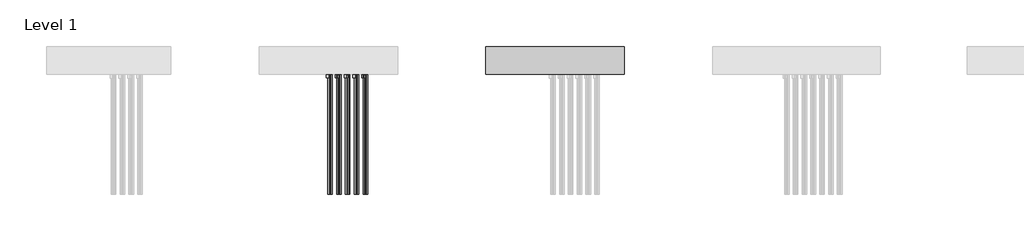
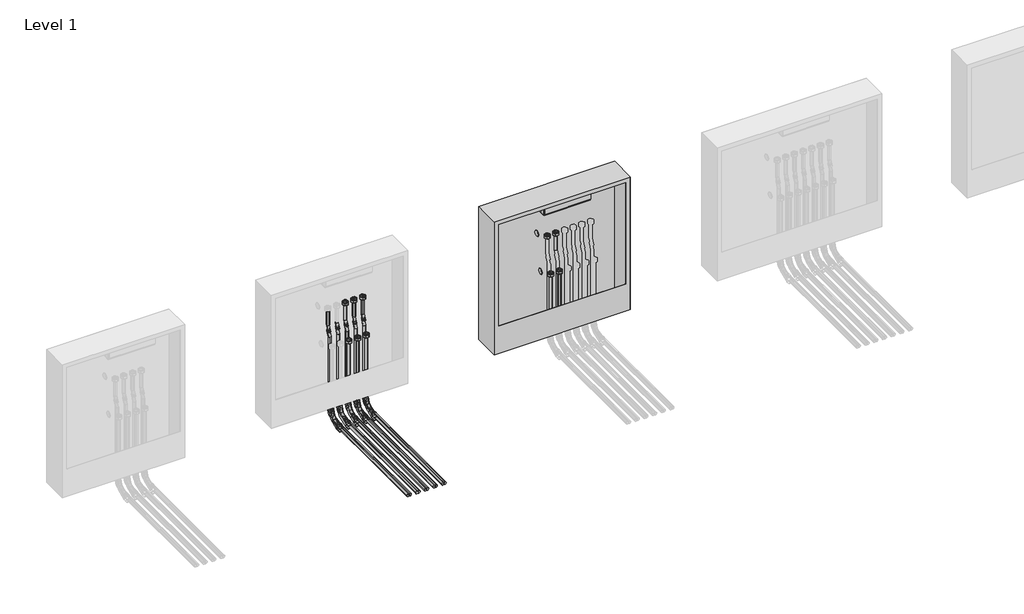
# One storey, part 3 of 15: 40 pipe fittings, 32 pipe segments, 1 proxy, 1 valve.
"""IFC4 building model written with IfcOpenShell, lengths in millimetres."""

from ifc_helpers import new_model, si_unit, point, frame, frame_2d, origin, place, context, project, spatial, circle_curve, trimmed, segment, composite_curve, outline, extrude, transform, mapped, element, save
from components import mechanical_equipment_387b3563, pipe_fitting_b05a7e06, pipe_fitting_27357a6d, pipe_fitting_daada113, pipe_fitting_3e503640, valve_a98dd44e

model = new_model("IFC4")

# Units and contexts
model_context = context("Model", 3, world=origin())
ifc_project = project(units=[si_unit("LENGTHUNIT", "METRE", prefix="MILLI")], contexts=[model_context])

# Site, building, storey
site = spatial("IfcSite", under=ifc_project)
building = spatial("IfcBuilding", under=site)
storey = spatial("IfcBuildingStorey", under=building, Name="Level 1", Elevation=0.0)

# Proxy
placement = place(None, origin())
mechanical_equipment_shape = mechanical_equipment_387b3563(model_context)
element("IfcBuildingElementProxy", 1, Name="USYSTEMS_Контроллер UH-6 230В1 : Контроллер UH-6 230В 2", ObjectType="USYSTEMS_Контроллер UH-6 230В1 : Контроллер UH-6 230В 2", at=placement, inside=storey, context=model_context, shape_type="MappedRepresentation", body=[
    mapped(mechanical_equipment_shape, transform((7445.6279983, 3891.7097258, 729.375), x_axis=(1.0, 0.0, 0.0), y_axis=(0.0, 1.0, 0.0), z_axis=(0.0, 0.0, 1.0))),
])

# Pipe fittings
pipe_fitting_shape = pipe_fitting_b05a7e06(model_context)
element("IfcPipeFitting", 2, ObjectType="USYSTEMS_УгловойФиксатор_Multi : Угловой фиксатор", at=placement, inside=storey, context=model_context, shape_type="MappedRepresentation", body=[
    mapped(pipe_fitting_shape, transform((6078.9182194, 3820.2111199, -114.3211479), x_axis=(0.0, 0.0, -1.0), y_axis=(0.0, -1.0, 0.0), z_axis=(-1.0, 0.0, 0.0))),
])
element("IfcPipeFitting", 3, ObjectType="USYSTEMS_УгловойФиксатор_Multi : Угловой фиксатор", at=placement, inside=storey, context=model_context, shape_type="MappedRepresentation", body=[
    mapped(pipe_fitting_shape, transform((6128.9182194, 3820.2111199, -114.3211479), x_axis=(0.0, 0.0, -1.0), y_axis=(0.0, -1.0, 0.0), z_axis=(-1.0, 0.0, 0.0))),
])
element("IfcPipeFitting", 4, ObjectType="USYSTEMS_УгловойФиксатор_Multi : Угловой фиксатор", at=placement, inside=storey, context=model_context, shape_type="MappedRepresentation", body=[
    mapped(pipe_fitting_shape, transform((6089.0039759, 3856.2111199, -114.3211479), x_axis=(0.0, 0.0, -1.0), y_axis=(0.0, -1.0, 0.0), z_axis=(-1.0, 0.0, 0.0))),
])
element("IfcPipeFitting", 5, ObjectType="USYSTEMS_УгловойФиксатор_Multi : Угловой фиксатор", at=placement, inside=storey, context=model_context, shape_type="MappedRepresentation", body=[
    mapped(pipe_fitting_shape, transform((6139.0039759, 3856.2111199, -114.3211479), x_axis=(0.0, 0.0, -1.0), y_axis=(0.0, -1.0, 0.0), z_axis=(-1.0, 0.0, 0.0))),
])
element("IfcPipeFitting", 6, ObjectType="USYSTEMS_УгловойФиксатор_Multi : Угловой фиксатор", at=placement, inside=storey, context=model_context, shape_type="MappedRepresentation", body=[
    mapped(pipe_fitting_shape, transform((6178.9182194, 3820.211442, -114.3211479), x_axis=(0.0, 0.0, -1.0), y_axis=(0.0, -1.0, 0.0), z_axis=(-1.0, 0.0, 0.0))),
])
element("IfcPipeFitting", 7, ObjectType="USYSTEMS_УгловойФиксатор_Multi : Угловой фиксатор", at=placement, inside=storey, context=model_context, shape_type="MappedRepresentation", body=[
    mapped(pipe_fitting_shape, transform((6189.0039759, 3856.2111199, -114.3211479), x_axis=(0.0, 0.0, -1.0), y_axis=(0.0, -1.0, 0.0), z_axis=(-1.0, 0.0, 0.0))),
])
element("IfcPipeFitting", 8, ObjectType="USYSTEMS_УгловойФиксатор_Multi : Угловой фиксатор", at=placement, inside=storey, context=model_context, shape_type="MappedRepresentation", body=[
    mapped(pipe_fitting_shape, transform((6228.9182194, 3820.2114295, -114.3211479), x_axis=(0.0, 0.0, -1.0), y_axis=(0.0, -1.0, 0.0), z_axis=(-1.0, 0.0, 0.0))),
])
element("IfcPipeFitting", 9, ObjectType="USYSTEMS_УгловойФиксатор_Multi : Угловой фиксатор", at=placement, inside=storey, context=model_context, shape_type="MappedRepresentation", body=[
    mapped(pipe_fitting_shape, transform((6239.0039759, 3856.2111199, -114.3211479), x_axis=(0.0, 0.0, -1.0), y_axis=(0.0, -1.0, 0.0), z_axis=(-1.0, 0.0, 0.0))),
])
element("IfcPipeFitting", 10, ObjectType="USYSTEMS_УгловойФиксатор_Multi : Угловой фиксатор", at=placement, inside=storey, context=model_context, shape_type="MappedRepresentation", body=[
    mapped(pipe_fitting_shape, transform((6278.9182194, 3820.2111304, -114.3211479), x_axis=(0.0, 0.0, -1.0), y_axis=(0.0, -1.0, 0.0), z_axis=(-1.0, 0.0, 0.0))),
])
element("IfcPipeFitting", 11, ObjectType="USYSTEMS_УгловойФиксатор_Multi : Угловой фиксатор", at=placement, inside=storey, context=model_context, shape_type="MappedRepresentation", body=[
    mapped(pipe_fitting_shape, transform((6289.0039759, 3856.2111199, -114.3211479), x_axis=(0.0, 0.0, -1.0), y_axis=(0.0, -1.0, 0.0), z_axis=(-1.0, 0.0, 0.0))),
])
pipe_fitting_2_shape = pipe_fitting_27357a6d(model_context)
element("IfcPipeFitting", 12, ObjectType="USYSTEMS_Штуцер с внутренней резьбой_FlexX_PEX : 16x2,0 x 3/4\" ВР Евроконус", at=placement, inside=storey, context=model_context, shape_type="MappedRepresentation", body=[
    mapped(pipe_fitting_2_shape, transform((6178.9182194, 3820.21158, 328.3084133), x_axis=(0.0, 0.0, 1.0), y_axis=(0.0, 1.0, 0.0), z_axis=(-1.0, 0.0, 0.0))),
])
element("IfcPipeFitting", 13, ObjectType="USYSTEMS_Штуцер с внутренней резьбой_FlexX_PEX : 16x2,0 x 3/4\" ВР Евроконус", at=placement, inside=storey, context=model_context, shape_type="MappedRepresentation", body=[
    mapped(pipe_fitting_2_shape, transform((6178.9182194, 3856.21158, 538.3084133), x_axis=(0.0, 0.0, 1.0), y_axis=(0.0, 1.0, 0.0), z_axis=(-1.0, 0.0, 0.0))),
])
element("IfcPipeFitting", 14, ObjectType="USYSTEMS_Штуцер с внутренней резьбой_FlexX_PEX : 16x2,0 x 3/4\" ВР Евроконус", at=placement, inside=storey, context=model_context, shape_type="MappedRepresentation", body=[
    mapped(pipe_fitting_2_shape, transform((6228.9182194, 3820.21158, 328.3084133), x_axis=(0.0, 0.0, 1.0), y_axis=(0.0, 1.0, 0.0), z_axis=(-1.0, 0.0, 0.0))),
])
element("IfcPipeFitting", 15, ObjectType="USYSTEMS_Штуцер с внутренней резьбой_FlexX_PEX : 16x2,0 x 3/4\" ВР Евроконус", at=placement, inside=storey, context=model_context, shape_type="MappedRepresentation", body=[
    mapped(pipe_fitting_2_shape, transform((6228.9182194, 3856.21158, 538.3084133), x_axis=(0.0, 0.0, 1.0), y_axis=(0.0, 1.0, 0.0), z_axis=(-1.0, 0.0, 0.0))),
])
element("IfcPipeFitting", 16, ObjectType="USYSTEMS_Штуцер с внутренней резьбой_FlexX_PEX : 16x2,0 x 3/4\" ВР Евроконус", at=placement, inside=storey, context=model_context, shape_type="MappedRepresentation", body=[
    mapped(pipe_fitting_2_shape, transform((6278.9182194, 3820.21158, 328.3084133), x_axis=(0.0, 0.0, 1.0), y_axis=(0.0, 1.0, 0.0), z_axis=(-1.0, 0.0, 0.0))),
])
element("IfcPipeFitting", 17, ObjectType="USYSTEMS_Штуцер с внутренней резьбой_FlexX_PEX : 16x2,0 x 3/4\" ВР Евроконус", at=placement, inside=storey, context=model_context, shape_type="MappedRepresentation", body=[
    mapped(pipe_fitting_2_shape, transform((6278.9182194, 3856.21158, 538.3084133), x_axis=(0.0, 0.0, 1.0), y_axis=(0.0, 1.0, 0.0), z_axis=(-1.0, 0.0, 0.0))),
])
element("IfcPipeFitting", 18, ObjectType="USYSTEMS_Штуцер с внутренней резьбой_FlexX_PEX : 16x2,0 x 3/4\" ВР Евроконус", at=placement, inside=storey, context=model_context, shape_type="MappedRepresentation", body=[
    mapped(pipe_fitting_2_shape, transform((7392.2335352, 3855.7726859, 538.3084133), x_axis=(0.0, 0.0, 1.0), y_axis=(0.0, 1.0, 0.0), z_axis=(-1.0, 0.0, 0.0))),
])
element("IfcPipeFitting", 19, ObjectType="USYSTEMS_Штуцер с внутренней резьбой_FlexX_PEX : 16x2,0 x 3/4\" ВР Евроконус", at=placement, inside=storey, context=model_context, shape_type="MappedRepresentation", body=[
    mapped(pipe_fitting_2_shape, transform((7392.2335352, 3819.7726859, 328.3084133), x_axis=(0.0, 0.0, 1.0), y_axis=(0.0, 1.0, 0.0), z_axis=(-1.0, 0.0, 0.0))),
])
element("IfcPipeFitting", 20, ObjectType="USYSTEMS_Штуцер с внутренней резьбой_FlexX_PEX : 16x2,0 x 3/4\" ВР Евроконус", at=placement, inside=storey, context=model_context, shape_type="MappedRepresentation", body=[
    mapped(pipe_fitting_2_shape, transform((7342.2335352, 3819.7726859, 328.3084133), x_axis=(0.0, 0.0, 1.0), y_axis=(0.0, 1.0, 0.0), z_axis=(-1.0, 0.0, 0.0))),
])
element("IfcPipeFitting", 21, ObjectType="USYSTEMS_Штуцер с внутренней резьбой_FlexX_PEX : 16x2,0 x 3/4\" ВР Евроконус", at=placement, inside=storey, context=model_context, shape_type="MappedRepresentation", body=[
    mapped(pipe_fitting_2_shape, transform((7342.2335352, 3855.7726859, 538.3084133), x_axis=(0.0, 0.0, 1.0), y_axis=(0.0, 1.0, 0.0), z_axis=(-1.0, 0.0, 0.0))),
])
pipe_fitting_3_shape = pipe_fitting_daada113(model_context)
element("IfcPipeFitting", 22, ObjectType="USYSTEMS_Гнутая труба_Radi Pipe : PN 6 в бухтах", at=placement, inside=storey, context=model_context, shape_type="MappedRepresentation", body=[
    mapped(pipe_fitting_3_shape, transform((6078.9182194, 3856.2108201, 414.5388211), x_axis=(0.0, 0.0, -1.0), y_axis=(1.0, 0.0, 0.0), z_axis=(0.0, -1.0, 0.0))),
])
element("IfcPipeFitting", 23, ObjectType="USYSTEMS_Гнутая труба_Radi Pipe : PN 6 в бухтах", at=placement, inside=storey, context=model_context, shape_type="MappedRepresentation", body=[
    mapped(pipe_fitting_3_shape, transform((6089.0039759, 3856.2111199, 388.2645272), x_axis=(0.3583679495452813, 0.0, -0.9335804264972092), y_axis=(-0.9335804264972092, 0.0, -0.3583679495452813), z_axis=(0.0, 1.0, 0.0))),
])
element("IfcPipeFitting", 24, ObjectType="USYSTEMS_Гнутая труба_Radi Pipe : PN 6 в бухтах", at=placement, inside=storey, context=model_context, shape_type="MappedRepresentation", body=[
    mapped(pipe_fitting_3_shape, transform((6128.9182194, 3856.2108202, 414.5122189), x_axis=(0.0, 0.0, -1.0), y_axis=(1.0, 0.0, 0.0), z_axis=(0.0, -1.0, 0.0))),
])
element("IfcPipeFitting", 25, ObjectType="USYSTEMS_Гнутая труба_Radi Pipe : PN 6 в бухтах", at=placement, inside=storey, context=model_context, shape_type="MappedRepresentation", body=[
    mapped(pipe_fitting_3_shape, transform((6139.0039759, 3856.2111199, 388.237925), x_axis=(0.3583679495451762, 0.0, -0.9335804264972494), y_axis=(-0.9335804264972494, 0.0, -0.3583679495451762), z_axis=(0.0, 1.0, 0.0))),
])
element("IfcPipeFitting", 26, ObjectType="USYSTEMS_Гнутая труба_Radi Pipe : PN 6 в бухтах", at=placement, inside=storey, context=model_context, shape_type="MappedRepresentation", body=[
    mapped(pipe_fitting_3_shape, transform((6178.9182194, 3856.2108201, 414.5388211), x_axis=(0.0, 0.0, -1.0), y_axis=(1.0, 0.0, 0.0), z_axis=(0.0, -1.0, 0.0))),
])
element("IfcPipeFitting", 27, ObjectType="USYSTEMS_Гнутая труба_Radi Pipe : PN 6 в бухтах", at=placement, inside=storey, context=model_context, shape_type="MappedRepresentation", body=[
    mapped(pipe_fitting_3_shape, transform((6189.0039759, 3856.2111199, 388.2645272), x_axis=(0.3583679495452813, 0.0, -0.9335804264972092), y_axis=(-0.9335804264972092, 0.0, -0.3583679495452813), z_axis=(0.0, 1.0, 0.0))),
])
element("IfcPipeFitting", 28, ObjectType="USYSTEMS_Гнутая труба_Radi Pipe : PN 6 в бухтах", at=placement, inside=storey, context=model_context, shape_type="MappedRepresentation", body=[
    mapped(pipe_fitting_3_shape, transform((6228.9182194, 3856.2108201, 414.5388211), x_axis=(0.0, 0.0, -1.0), y_axis=(1.0, 0.0, 0.0), z_axis=(0.0, -1.0, 0.0))),
])
element("IfcPipeFitting", 29, ObjectType="USYSTEMS_Гнутая труба_Radi Pipe : PN 6 в бухтах", at=placement, inside=storey, context=model_context, shape_type="MappedRepresentation", body=[
    mapped(pipe_fitting_3_shape, transform((6239.0039759, 3856.2111199, 388.2645272), x_axis=(0.3583679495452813, 0.0, -0.9335804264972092), y_axis=(-0.9335804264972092, 0.0, -0.3583679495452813), z_axis=(0.0, 1.0, 0.0))),
])
element("IfcPipeFitting", 30, ObjectType="USYSTEMS_Гнутая труба_Radi Pipe : PN 6 в бухтах", at=placement, inside=storey, context=model_context, shape_type="MappedRepresentation", body=[
    mapped(pipe_fitting_3_shape, transform((6278.9182194, 3856.2108201, 414.5388211), x_axis=(0.0, 0.0, -1.0), y_axis=(1.0, 0.0, 0.0), z_axis=(0.0, -1.0, 0.0))),
])
element("IfcPipeFitting", 31, ObjectType="USYSTEMS_Гнутая труба_Radi Pipe : PN 6 в бухтах", at=placement, inside=storey, context=model_context, shape_type="MappedRepresentation", body=[
    mapped(pipe_fitting_3_shape, transform((6289.0039759, 3856.2111199, 388.2645272), x_axis=(0.3583679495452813, 0.0, -0.9335804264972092), y_axis=(-0.9335804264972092, 0.0, -0.3583679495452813), z_axis=(0.0, 1.0, 0.0))),
])
pipe_fitting_4_shape = pipe_fitting_3e503640(model_context)
element("IfcPipeFitting", 32, ObjectType="USYSTEMS_Гнутая труба_Radi Pipe : PN 6 в бухтах_С фиксатором", at=placement, inside=storey, context=model_context, shape_type="MappedRepresentation", body=[
    mapped(pipe_fitting_4_shape, transform((6078.9182194, 3820.2111199, -114.3211479), x_axis=(0.0, 0.0, -1.0), y_axis=(0.0, -1.0, 0.0), z_axis=(-1.0, 0.0, 0.0))),
])
element("IfcPipeFitting", 33, ObjectType="USYSTEMS_Гнутая труба_Radi Pipe : PN 6 в бухтах_С фиксатором", at=placement, inside=storey, context=model_context, shape_type="MappedRepresentation", body=[
    mapped(pipe_fitting_4_shape, transform((6128.9182194, 3820.2111199, -114.3211479), x_axis=(0.0, 0.0, -1.0), y_axis=(0.0, -1.0, 0.0), z_axis=(-1.0, 0.0, 0.0))),
])
element("IfcPipeFitting", 34, ObjectType="USYSTEMS_Гнутая труба_Radi Pipe : PN 6 в бухтах_С фиксатором", at=placement, inside=storey, context=model_context, shape_type="MappedRepresentation", body=[
    mapped(pipe_fitting_4_shape, transform((6089.0039759, 3856.2111199, -114.3211479), x_axis=(0.0, 0.0, -1.0), y_axis=(0.0, -1.0, 0.0), z_axis=(-1.0, 0.0, 0.0))),
])
element("IfcPipeFitting", 35, ObjectType="USYSTEMS_Гнутая труба_Radi Pipe : PN 6 в бухтах_С фиксатором", at=placement, inside=storey, context=model_context, shape_type="MappedRepresentation", body=[
    mapped(pipe_fitting_4_shape, transform((6139.0039759, 3856.2111199, -114.3211479), x_axis=(0.0, 0.0, -1.0), y_axis=(0.0, -1.0, 0.0), z_axis=(-1.0, 0.0, 0.0))),
])
element("IfcPipeFitting", 36, ObjectType="USYSTEMS_Гнутая труба_Radi Pipe : PN 6 в бухтах_С фиксатором", at=placement, inside=storey, context=model_context, shape_type="MappedRepresentation", body=[
    mapped(pipe_fitting_4_shape, transform((6178.9182194, 3820.211442, -114.3211479), x_axis=(0.0, 0.0, -1.0), y_axis=(0.0, -1.0, 0.0), z_axis=(-1.0, 0.0, 0.0))),
])
element("IfcPipeFitting", 37, ObjectType="USYSTEMS_Гнутая труба_Radi Pipe : PN 6 в бухтах_С фиксатором", at=placement, inside=storey, context=model_context, shape_type="MappedRepresentation", body=[
    mapped(pipe_fitting_4_shape, transform((6189.0039759, 3856.2111199, -114.3211479), x_axis=(0.0, 0.0, -1.0), y_axis=(0.0, -1.0, 0.0), z_axis=(-1.0, 0.0, 0.0))),
])
element("IfcPipeFitting", 38, ObjectType="USYSTEMS_Гнутая труба_Radi Pipe : PN 6 в бухтах_С фиксатором", at=placement, inside=storey, context=model_context, shape_type="MappedRepresentation", body=[
    mapped(pipe_fitting_4_shape, transform((6228.9182194, 3820.2114295, -114.3211479), x_axis=(0.0, 0.0, -1.0), y_axis=(0.0, -1.0, 0.0), z_axis=(-1.0, 0.0, 0.0))),
])
element("IfcPipeFitting", 39, ObjectType="USYSTEMS_Гнутая труба_Radi Pipe : PN 6 в бухтах_С фиксатором", at=placement, inside=storey, context=model_context, shape_type="MappedRepresentation", body=[
    mapped(pipe_fitting_4_shape, transform((6239.0039759, 3856.2111199, -114.3211479), x_axis=(0.0, 0.0, -1.0), y_axis=(0.0, -1.0, 0.0), z_axis=(-1.0, 0.0, 0.0))),
])
element("IfcPipeFitting", 40, ObjectType="USYSTEMS_Гнутая труба_Radi Pipe : PN 6 в бухтах_С фиксатором", at=placement, inside=storey, context=model_context, shape_type="MappedRepresentation", body=[
    mapped(pipe_fitting_4_shape, transform((6278.9182194, 3820.2111304, -114.3211479), x_axis=(0.0, 0.0, -1.0), y_axis=(0.0, -1.0, 0.0), z_axis=(-1.0, 0.0, 0.0))),
])
element("IfcPipeFitting", 41, ObjectType="USYSTEMS_Гнутая труба_Radi Pipe : PN 6 в бухтах_С фиксатором", at=placement, inside=storey, context=model_context, shape_type="MappedRepresentation", body=[
    mapped(pipe_fitting_4_shape, transform((6289.0039759, 3856.2111199, -114.3211479), x_axis=(0.0, 0.0, -1.0), y_axis=(0.0, -1.0, 0.0), z_axis=(-1.0, 0.0, 0.0))),
])

# Pipe segments
element("IfcPipeSegment", 42, ObjectType="USYSTEMS труба Radi Pipe белая PN6", at=placement, inside=storey, context=model_context, shape_type="SweptSolid", body=[
    extrude(outline(composite_curve([segment(trimmed(circle_curve(frame_2d((0.0, -8.0)), 8.0), [point((-8.0, -8.0))], [point((0.0, 0.0))], False, "CARTESIAN"), True, "CONTINUOUS"), segment(trimmed(circle_curve(frame_2d((0.0, -8.0)), 8.0), [point((0.0, 0.0))], [point((8.0, -8.0))], False, "CARTESIAN"), True, "CONTINUOUS"), segment(trimmed(circle_curve(frame_2d((0.0, -8.0)), 8.0), [point((8.0, -8.0))], [point((0.0, -16.0))], False, "CARTESIAN"), True, "CONTINUOUS"), segment(trimmed(circle_curve(frame_2d((0.0, -8.0)), 8.0), [point((0.0, -16.0))], [point((-8.0, -8.0))], False, "CARTESIAN"), True, "CONTINUOUS")], self_intersect=False)), frame((6078.9182194, 3848.2108201, 438.2622802), z_axis=(0.0, 7.672802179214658e-06, 0.9999999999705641), x_axis=(-1.0, 0.0, 0.0)), (0.0, 0.0, 1.0), 99.0461944),
])
element("IfcPipeSegment", 43, ObjectType="USYSTEMS труба Radi Pipe белая PN6", at=placement, inside=storey, context=model_context, shape_type="SweptSolid", body=[
    extrude(outline(composite_curve([segment(trimmed(circle_curve(frame_2d((0.0, 8.0)), 8.0), [point((0.0003714, 16.0))], [point((8.0, 7.9996286))], False, "CARTESIAN"), True, "CONTINUOUS"), segment(trimmed(circle_curve(frame_2d((0.0, 8.0)), 8.0), [point((8.0, 7.9996286))], [point((-0.0003715, 0.0))], False, "CARTESIAN"), True, "CONTINUOUS"), segment(trimmed(circle_curve(frame_2d((0.0, 8.0)), 8.0), [point((-0.0003715, 0.0))], [point((-8.0, 8.0003714))], False, "CARTESIAN"), True, "CONTINUOUS"), segment(trimmed(circle_curve(frame_2d((0.0, 8.0)), 8.0), [point((-8.0, 8.0003714))], [point((0.0003714, 16.0))], False, "CARTESIAN"), True, "CONTINUOUS")], self_intersect=False)), frame((6087.4199249, 3848.2108201, 392.3912544), z_axis=(-0.358367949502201, 1.5532384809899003e-05, 0.9335804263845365), x_axis=(0.933580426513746, 5.962323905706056e-06, 0.35836794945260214)), (0.0, 0.0, 1.0), 19.3032171),
])
element("IfcPipeSegment", 44, ObjectType="USYSTEMS труба Radi Pipe белая PN6", at=placement, inside=storey, context=model_context, shape_type="SweptSolid", body=[
    extrude(outline(composite_curve([segment(trimmed(circle_curve(frame_2d((6089.0039759, 3856.2111199)), 8.0), [point((6097.0039759, 3856.2111199))], [point((6089.0039759, 3848.2111199))], False, "CARTESIAN"), True, "CONTINUOUS"), segment(trimmed(circle_curve(frame_2d((6089.0039759, 3856.2111199)), 8.0), [point((6089.0039759, 3848.2111199))], [point((6081.0039759, 3856.2111199))], False, "CARTESIAN"), True, "CONTINUOUS"), segment(trimmed(circle_curve(frame_2d((6089.0039759, 3856.2111199)), 8.0), [point((6081.0039759, 3856.2111199))], [point((6089.0039759, 3864.2111199))], False, "CARTESIAN"), True, "CONTINUOUS"), segment(trimmed(circle_curve(frame_2d((6089.0039759, 3856.2111199)), 8.0), [point((6089.0039759, 3864.2111199))], [point((6097.0039759, 3856.2111199))], False, "CARTESIAN"), True, "CONTINUOUS")], self_intersect=False)), frame((0.0, 0.0, -43.3211479), z_axis=(0.0, 0.0, 1.0), x_axis=(1.0, 0.0, 0.0)), (0.0, 0.0, 1.0), 407.8622774),
])
element("IfcPipeSegment", 45, ObjectType="USYSTEMS труба Radi Pipe белая PN6", at=placement, inside=storey, context=model_context, shape_type="SweptSolid", body=[
    extrude(outline(composite_curve([segment(trimmed(circle_curve(frame_2d((0.0, 8.0)), 8.0), [point((0.0003712, 16.0))], [point((8.0, 7.9996287))], False, "CARTESIAN"), True, "CONTINUOUS"), segment(trimmed(circle_curve(frame_2d((0.0, 8.0)), 8.0), [point((8.0, 7.9996287))], [point((-0.0003712, 0.0))], False, "CARTESIAN"), True, "CONTINUOUS"), segment(trimmed(circle_curve(frame_2d((0.0, 8.0)), 8.0), [point((-0.0003712, 0.0))], [point((-8.0, 8.0003713))], False, "CARTESIAN"), True, "CONTINUOUS"), segment(trimmed(circle_curve(frame_2d((0.0, 8.0)), 8.0), [point((-8.0, 8.0003713))], [point((0.0003712, 16.0))], False, "CARTESIAN"), True, "CONTINUOUS")], self_intersect=False)), frame((6137.4199249, 3848.2108202, 392.3646521), z_axis=(-0.358367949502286, 1.5525497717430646e-05, 0.9335804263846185), x_axis=(0.9335804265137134, 5.959680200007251e-06, 0.3583679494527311)), (0.0, 0.0, 1.0), 19.3032171),
])
element("IfcPipeSegment", 46, ObjectType="USYSTEMS труба Radi Pipe белая PN6", at=placement, inside=storey, context=model_context, shape_type="SweptSolid", body=[
    extrude(outline(composite_curve([segment(trimmed(circle_curve(frame_2d((6139.0039759, 3856.2111199)), 8.0), [point((6147.0039759, 3856.2111199))], [point((6139.0039759, 3848.2111199))], False, "CARTESIAN"), True, "CONTINUOUS"), segment(trimmed(circle_curve(frame_2d((6139.0039759, 3856.2111199)), 8.0), [point((6139.0039759, 3848.2111199))], [point((6131.0039759, 3856.2111199))], False, "CARTESIAN"), True, "CONTINUOUS"), segment(trimmed(circle_curve(frame_2d((6139.0039759, 3856.2111199)), 8.0), [point((6131.0039759, 3856.2111199))], [point((6139.0039759, 3864.2111199))], False, "CARTESIAN"), True, "CONTINUOUS"), segment(trimmed(circle_curve(frame_2d((6139.0039759, 3856.2111199)), 8.0), [point((6139.0039759, 3864.2111199))], [point((6147.0039759, 3856.2111199))], False, "CARTESIAN"), True, "CONTINUOUS")], self_intersect=False)), frame((0.0, 0.0, -43.3211479), z_axis=(0.0, 0.0, 1.0), x_axis=(1.0, 0.0, 0.0)), (0.0, 0.0, 1.0), 407.8356751),
])
element("IfcPipeSegment", 47, ObjectType="USYSTEMS труба Radi Pipe белая PN6", at=placement, inside=storey, context=model_context, shape_type="SweptSolid", body=[
    extrude(outline(composite_curve([segment(trimmed(circle_curve(frame_2d((-114.3211479, 6078.9182194)), 8.0), [point((-114.3211479, 6070.9182194))], [point((-122.3211479, 6078.9182194))], False, "CARTESIAN"), True, "CONTINUOUS"), segment(trimmed(circle_curve(frame_2d((-114.3211479, 6078.9182194)), 8.0), [point((-122.3211479, 6078.9182194))], [point((-114.3211479, 6086.9182194))], False, "CARTESIAN"), True, "CONTINUOUS"), segment(trimmed(circle_curve(frame_2d((-114.3211479, 6078.9182194)), 8.0), [point((-114.3211479, 6086.9182194))], [point((-106.3211479, 6078.9182194))], False, "CARTESIAN"), True, "CONTINUOUS"), segment(trimmed(circle_curve(frame_2d((-114.3211479, 6078.9182194)), 8.0), [point((-106.3211479, 6078.9182194))], [point((-114.3211479, 6070.9182194))], False, "CARTESIAN"), True, "CONTINUOUS")], self_intersect=False)), frame((0.0, 3054.7207207, 0.0), z_axis=(0.0, 1.0, 0.0), x_axis=(0.0, 0.0, 1.0)), (0.0, 0.0, 1.0), 694.4903992),
])
element("IfcPipeSegment", 48, ObjectType="USYSTEMS труба Radi Pipe белая PN6", at=placement, inside=storey, context=model_context, shape_type="SweptSolid", body=[
    extrude(outline(composite_curve([segment(trimmed(circle_curve(frame_2d((-114.3211479, 6128.9182194)), 8.0), [point((-114.3211479, 6120.9182194))], [point((-122.3211479, 6128.9182194))], False, "CARTESIAN"), True, "CONTINUOUS"), segment(trimmed(circle_curve(frame_2d((-114.3211479, 6128.9182194)), 8.0), [point((-122.3211479, 6128.9182194))], [point((-114.3211479, 6136.9182194))], False, "CARTESIAN"), True, "CONTINUOUS"), segment(trimmed(circle_curve(frame_2d((-114.3211479, 6128.9182194)), 8.0), [point((-114.3211479, 6136.9182194))], [point((-106.3211479, 6128.9182194))], False, "CARTESIAN"), True, "CONTINUOUS"), segment(trimmed(circle_curve(frame_2d((-114.3211479, 6128.9182194)), 8.0), [point((-106.3211479, 6128.9182194))], [point((-114.3211479, 6120.9182194))], False, "CARTESIAN"), True, "CONTINUOUS")], self_intersect=False)), frame((0.0, 3054.7207207, 0.0), z_axis=(0.0, 1.0, 0.0), x_axis=(0.0, 0.0, 1.0)), (0.0, 0.0, 1.0), 694.4903992),
])
element("IfcPipeSegment", 49, ObjectType="USYSTEMS труба Radi Pipe белая PN6", at=placement, inside=storey, context=model_context, shape_type="SweptSolid", body=[
    extrude(outline(composite_curve([segment(trimmed(circle_curve(frame_2d((-114.3211479, 6089.0039759)), 8.0), [point((-114.3211479, 6081.0039759))], [point((-122.3211479, 6089.0039759))], False, "CARTESIAN"), True, "CONTINUOUS"), segment(trimmed(circle_curve(frame_2d((-114.3211479, 6089.0039759)), 8.0), [point((-122.3211479, 6089.0039759))], [point((-114.3211479, 6097.0039759))], False, "CARTESIAN"), True, "CONTINUOUS"), segment(trimmed(circle_curve(frame_2d((-114.3211479, 6089.0039759)), 8.0), [point((-114.3211479, 6097.0039759))], [point((-106.3211479, 6089.0039759))], False, "CARTESIAN"), True, "CONTINUOUS"), segment(trimmed(circle_curve(frame_2d((-114.3211479, 6089.0039759)), 8.0), [point((-106.3211479, 6089.0039759))], [point((-114.3211479, 6081.0039759))], False, "CARTESIAN"), True, "CONTINUOUS")], self_intersect=False)), frame((0.0, 3054.7207207, 0.0), z_axis=(0.0, 1.0, 0.0), x_axis=(0.0, 0.0, 1.0)), (0.0, 0.0, 1.0), 730.4903992),
])
element("IfcPipeSegment", 50, ObjectType="USYSTEMS труба Radi Pipe белая PN6", at=placement, inside=storey, context=model_context, shape_type="SweptSolid", body=[
    extrude(outline(composite_curve([segment(trimmed(circle_curve(frame_2d((-114.3211479, 6139.0039759)), 8.0), [point((-114.3211479, 6131.0039759))], [point((-122.3211479, 6139.0039759))], False, "CARTESIAN"), True, "CONTINUOUS"), segment(trimmed(circle_curve(frame_2d((-114.3211479, 6139.0039759)), 8.0), [point((-122.3211479, 6139.0039759))], [point((-114.3211479, 6147.0039759))], False, "CARTESIAN"), True, "CONTINUOUS"), segment(trimmed(circle_curve(frame_2d((-114.3211479, 6139.0039759)), 8.0), [point((-114.3211479, 6147.0039759))], [point((-106.3211479, 6139.0039759))], False, "CARTESIAN"), True, "CONTINUOUS"), segment(trimmed(circle_curve(frame_2d((-114.3211479, 6139.0039759)), 8.0), [point((-106.3211479, 6139.0039759))], [point((-114.3211479, 6131.0039759))], False, "CARTESIAN"), True, "CONTINUOUS")], self_intersect=False)), frame((0.0, 3054.7207207, 0.0), z_axis=(0.0, 1.0, 0.0), x_axis=(0.0, 0.0, 1.0)), (0.0, 0.0, 1.0), 730.4903992),
])
element("IfcPipeSegment", 51, ObjectType="USYSTEMS труба Radi Pipe белая PN6", at=placement, inside=storey, context=model_context, shape_type="SweptSolid", body=[
    extrude(outline(composite_curve([segment(trimmed(circle_curve(frame_2d((0.0, -8.0)), 8.0), [point((-8.0, -8.0))], [point((0.0, 0.0))], False, "CARTESIAN"), True, "CONTINUOUS"), segment(trimmed(circle_curve(frame_2d((0.0, -8.0)), 8.0), [point((0.0, 0.0))], [point((8.0, -8.0))], False, "CARTESIAN"), True, "CONTINUOUS"), segment(trimmed(circle_curve(frame_2d((0.0, -8.0)), 8.0), [point((8.0, -8.0))], [point((0.0, -16.0))], False, "CARTESIAN"), True, "CONTINUOUS"), segment(trimmed(circle_curve(frame_2d((0.0, -8.0)), 8.0), [point((0.0, -16.0))], [point((-8.0, -8.0))], False, "CARTESIAN"), True, "CONTINUOUS")], self_intersect=False)), frame((6178.9182194, 3812.211442, -43.3211449), z_axis=(0.0, 3.724502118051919e-07, 0.9999999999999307), x_axis=(-1.0, 0.0, 0.0)), (0.0, 0.0, 1.0), 370.6295612),
])
element("IfcPipeSegment", 52, ObjectType="USYSTEMS труба Radi Pipe белая PN6", at=placement, inside=storey, context=model_context, shape_type="SweptSolid", body=[
    extrude(outline(composite_curve([segment(trimmed(circle_curve(frame_2d((0.0, -8.0)), 8.0), [point((-8.0, -8.0))], [point((0.0, 0.0))], False, "CARTESIAN"), True, "CONTINUOUS"), segment(trimmed(circle_curve(frame_2d((0.0, -8.0)), 8.0), [point((0.0, 0.0))], [point((8.0, -8.0))], False, "CARTESIAN"), True, "CONTINUOUS"), segment(trimmed(circle_curve(frame_2d((0.0, -8.0)), 8.0), [point((8.0, -8.0))], [point((0.0, -16.0))], False, "CARTESIAN"), True, "CONTINUOUS"), segment(trimmed(circle_curve(frame_2d((0.0, -8.0)), 8.0), [point((0.0, -16.0))], [point((-8.0, -8.0))], False, "CARTESIAN"), True, "CONTINUOUS")], self_intersect=False)), frame((6178.9182194, 3848.2108201, 438.2622802), z_axis=(0.0, 7.672802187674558e-06, 0.9999999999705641), x_axis=(-1.0, 0.0, 0.0)), (0.0, 0.0, 1.0), 99.0461944),
])
element("IfcPipeSegment", 53, ObjectType="USYSTEMS труба Radi Pipe белая PN6", at=placement, inside=storey, context=model_context, shape_type="SweptSolid", body=[
    extrude(outline(composite_curve([segment(trimmed(circle_curve(frame_2d((0.0, 8.0)), 8.0), [point((0.0003714, 16.0))], [point((8.0, 7.9996286))], False, "CARTESIAN"), True, "CONTINUOUS"), segment(trimmed(circle_curve(frame_2d((0.0, 8.0)), 8.0), [point((8.0, 7.9996286))], [point((-0.0003715, 0.0))], False, "CARTESIAN"), True, "CONTINUOUS"), segment(trimmed(circle_curve(frame_2d((0.0, 8.0)), 8.0), [point((-0.0003715, 0.0))], [point((-8.0, 8.0003714))], False, "CARTESIAN"), True, "CONTINUOUS"), segment(trimmed(circle_curve(frame_2d((0.0, 8.0)), 8.0), [point((-8.0, 8.0003714))], [point((0.0003714, 16.0))], False, "CARTESIAN"), True, "CONTINUOUS")], self_intersect=False)), frame((6187.4199249, 3848.2108201, 392.3912544), z_axis=(-0.35836794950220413, 1.5532384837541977e-05, 0.9335804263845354), x_axis=(0.9335804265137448, 5.962323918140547e-06, 0.35836794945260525)), (0.0, 0.0, 1.0), 19.3032171),
])
element("IfcPipeSegment", 54, ObjectType="USYSTEMS труба Radi Pipe белая PN6", at=placement, inside=storey, context=model_context, shape_type="SweptSolid", body=[
    extrude(outline(composite_curve([segment(trimmed(circle_curve(frame_2d((6189.0039759, 3856.2111199)), 8.0), [point((6197.0039759, 3856.2111199))], [point((6189.0039759, 3848.2111199))], False, "CARTESIAN"), True, "CONTINUOUS"), segment(trimmed(circle_curve(frame_2d((6189.0039759, 3856.2111199)), 8.0), [point((6189.0039759, 3848.2111199))], [point((6181.0039759, 3856.2111199))], False, "CARTESIAN"), True, "CONTINUOUS"), segment(trimmed(circle_curve(frame_2d((6189.0039759, 3856.2111199)), 8.0), [point((6181.0039759, 3856.2111199))], [point((6189.0039759, 3864.2111199))], False, "CARTESIAN"), True, "CONTINUOUS"), segment(trimmed(circle_curve(frame_2d((6189.0039759, 3856.2111199)), 8.0), [point((6189.0039759, 3864.2111199))], [point((6197.0039759, 3856.2111199))], False, "CARTESIAN"), True, "CONTINUOUS")], self_intersect=False)), frame((0.0, 0.0, -43.3211479), z_axis=(0.0, 0.0, 1.0), x_axis=(1.0, 0.0, 0.0)), (0.0, 0.0, 1.0), 407.8622774),
])
element("IfcPipeSegment", 55, ObjectType="USYSTEMS труба Radi Pipe белая PN6", at=placement, inside=storey, context=model_context, shape_type="SweptSolid", body=[
    extrude(outline(composite_curve([segment(trimmed(circle_curve(frame_2d((-114.3211479, 6178.9182194)), 8.0), [point((-114.3211479, 6170.9182194))], [point((-122.3211479, 6178.9182194))], False, "CARTESIAN"), True, "CONTINUOUS"), segment(trimmed(circle_curve(frame_2d((-114.3211479, 6178.9182194)), 8.0), [point((-122.3211479, 6178.9182194))], [point((-114.3211479, 6186.9182194))], False, "CARTESIAN"), True, "CONTINUOUS"), segment(trimmed(circle_curve(frame_2d((-114.3211479, 6178.9182194)), 8.0), [point((-114.3211479, 6186.9182194))], [point((-106.3211479, 6178.9182194))], False, "CARTESIAN"), True, "CONTINUOUS"), segment(trimmed(circle_curve(frame_2d((-114.3211479, 6178.9182194)), 8.0), [point((-106.3211479, 6178.9182194))], [point((-114.3211479, 6170.9182194))], False, "CARTESIAN"), True, "CONTINUOUS")], self_intersect=False)), frame((0.0, 3054.7207207, 0.0), z_axis=(0.0, 1.0, 0.0), x_axis=(0.0, 0.0, 1.0)), (0.0, 0.0, 1.0), 694.4907213),
])
element("IfcPipeSegment", 56, ObjectType="USYSTEMS труба Radi Pipe белая PN6", at=placement, inside=storey, context=model_context, shape_type="SweptSolid", body=[
    extrude(outline(composite_curve([segment(trimmed(circle_curve(frame_2d((-114.3211479, 6189.0039759)), 8.0), [point((-114.3211479, 6181.0039759))], [point((-122.3211479, 6189.0039759))], False, "CARTESIAN"), True, "CONTINUOUS"), segment(trimmed(circle_curve(frame_2d((-114.3211479, 6189.0039759)), 8.0), [point((-122.3211479, 6189.0039759))], [point((-114.3211479, 6197.0039759))], False, "CARTESIAN"), True, "CONTINUOUS"), segment(trimmed(circle_curve(frame_2d((-114.3211479, 6189.0039759)), 8.0), [point((-114.3211479, 6197.0039759))], [point((-106.3211479, 6189.0039759))], False, "CARTESIAN"), True, "CONTINUOUS"), segment(trimmed(circle_curve(frame_2d((-114.3211479, 6189.0039759)), 8.0), [point((-106.3211479, 6189.0039759))], [point((-114.3211479, 6181.0039759))], False, "CARTESIAN"), True, "CONTINUOUS")], self_intersect=False)), frame((0.0, 3054.7207207, 0.0), z_axis=(0.0, 1.0, 0.0), x_axis=(0.0, 0.0, 1.0)), (0.0, 0.0, 1.0), 730.4903992),
])
element("IfcPipeSegment", 57, ObjectType="USYSTEMS труба Radi Pipe белая PN6", at=placement, inside=storey, context=model_context, shape_type="SweptSolid", body=[
    extrude(outline(composite_curve([segment(trimmed(circle_curve(frame_2d((0.0, -8.0)), 8.0), [point((-8.0, -8.0))], [point((0.0, 0.0))], False, "CARTESIAN"), True, "CONTINUOUS"), segment(trimmed(circle_curve(frame_2d((0.0, -8.0)), 8.0), [point((0.0, 0.0))], [point((8.0, -8.0))], False, "CARTESIAN"), True, "CONTINUOUS"), segment(trimmed(circle_curve(frame_2d((0.0, -8.0)), 8.0), [point((8.0, -8.0))], [point((0.0, -16.0))], False, "CARTESIAN"), True, "CONTINUOUS"), segment(trimmed(circle_curve(frame_2d((0.0, -8.0)), 8.0), [point((0.0, -16.0))], [point((-8.0, -8.0))], False, "CARTESIAN"), True, "CONTINUOUS")], self_intersect=False)), frame((6228.9182194, 3812.2114295, -43.3211446), z_axis=(0.0, 4.0608924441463e-07, 0.9999999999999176), x_axis=(-1.0, 0.0, 0.0)), (0.0, 0.0, 1.0), 370.6295612),
])
element("IfcPipeSegment", 58, ObjectType="USYSTEMS труба Radi Pipe белая PN6", at=placement, inside=storey, context=model_context, shape_type="SweptSolid", body=[
    extrude(outline(composite_curve([segment(trimmed(circle_curve(frame_2d((0.0, -8.0)), 8.0), [point((-8.0, -8.0))], [point((0.0, 0.0))], False, "CARTESIAN"), True, "CONTINUOUS"), segment(trimmed(circle_curve(frame_2d((0.0, -8.0)), 8.0), [point((0.0, 0.0))], [point((8.0, -8.0))], False, "CARTESIAN"), True, "CONTINUOUS"), segment(trimmed(circle_curve(frame_2d((0.0, -8.0)), 8.0), [point((8.0, -8.0))], [point((0.0, -16.0))], False, "CARTESIAN"), True, "CONTINUOUS"), segment(trimmed(circle_curve(frame_2d((0.0, -8.0)), 8.0), [point((0.0, -16.0))], [point((-8.0, -8.0))], False, "CARTESIAN"), True, "CONTINUOUS")], self_intersect=False)), frame((6228.9182194, 3848.2108201, 438.2622802), z_axis=(0.0, 7.672802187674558e-06, 0.9999999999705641), x_axis=(-1.0, 0.0, 0.0)), (0.0, 0.0, 1.0), 99.0461944),
])
element("IfcPipeSegment", 59, ObjectType="USYSTEMS труба Radi Pipe белая PN6", at=placement, inside=storey, context=model_context, shape_type="SweptSolid", body=[
    extrude(outline(composite_curve([segment(trimmed(circle_curve(frame_2d((0.0, 8.0)), 8.0), [point((0.0003714, 16.0))], [point((8.0, 7.9996286))], False, "CARTESIAN"), True, "CONTINUOUS"), segment(trimmed(circle_curve(frame_2d((0.0, 8.0)), 8.0), [point((8.0, 7.9996286))], [point((-0.0003715, 0.0))], False, "CARTESIAN"), True, "CONTINUOUS"), segment(trimmed(circle_curve(frame_2d((0.0, 8.0)), 8.0), [point((-0.0003715, 0.0))], [point((-8.0, 8.0003714))], False, "CARTESIAN"), True, "CONTINUOUS"), segment(trimmed(circle_curve(frame_2d((0.0, 8.0)), 8.0), [point((-8.0, 8.0003714))], [point((0.0003714, 16.0))], False, "CARTESIAN"), True, "CONTINUOUS")], self_intersect=False)), frame((6237.4199249, 3848.2108201, 392.3912544), z_axis=(-0.35836794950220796, 1.5532384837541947e-05, 0.9335804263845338), x_axis=(0.9335804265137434, 5.962323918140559e-06, 0.35836794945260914)), (0.0, 0.0, 1.0), 19.3032171),
])
element("IfcPipeSegment", 60, ObjectType="USYSTEMS труба Radi Pipe белая PN6", at=placement, inside=storey, context=model_context, shape_type="SweptSolid", body=[
    extrude(outline(composite_curve([segment(trimmed(circle_curve(frame_2d((6239.0039759, 3856.2111199)), 8.0), [point((6247.0039759, 3856.2111199))], [point((6239.0039759, 3848.2111199))], False, "CARTESIAN"), True, "CONTINUOUS"), segment(trimmed(circle_curve(frame_2d((6239.0039759, 3856.2111199)), 8.0), [point((6239.0039759, 3848.2111199))], [point((6231.0039759, 3856.2111199))], False, "CARTESIAN"), True, "CONTINUOUS"), segment(trimmed(circle_curve(frame_2d((6239.0039759, 3856.2111199)), 8.0), [point((6231.0039759, 3856.2111199))], [point((6239.0039759, 3864.2111199))], False, "CARTESIAN"), True, "CONTINUOUS"), segment(trimmed(circle_curve(frame_2d((6239.0039759, 3856.2111199)), 8.0), [point((6239.0039759, 3864.2111199))], [point((6247.0039759, 3856.2111199))], False, "CARTESIAN"), True, "CONTINUOUS")], self_intersect=False)), frame((0.0, 0.0, -43.3211479), z_axis=(0.0, 0.0, 1.0), x_axis=(1.0, 0.0, 0.0)), (0.0, 0.0, 1.0), 407.8622774),
])
element("IfcPipeSegment", 61, ObjectType="USYSTEMS труба Radi Pipe белая PN6", at=placement, inside=storey, context=model_context, shape_type="SweptSolid", body=[
    extrude(outline(composite_curve([segment(trimmed(circle_curve(frame_2d((-114.3211479, 6228.9182194)), 8.0), [point((-114.3211479, 6220.9182194))], [point((-122.3211479, 6228.9182194))], False, "CARTESIAN"), True, "CONTINUOUS"), segment(trimmed(circle_curve(frame_2d((-114.3211479, 6228.9182194)), 8.0), [point((-122.3211479, 6228.9182194))], [point((-114.3211479, 6236.9182194))], False, "CARTESIAN"), True, "CONTINUOUS"), segment(trimmed(circle_curve(frame_2d((-114.3211479, 6228.9182194)), 8.0), [point((-114.3211479, 6236.9182194))], [point((-106.3211479, 6228.9182194))], False, "CARTESIAN"), True, "CONTINUOUS"), segment(trimmed(circle_curve(frame_2d((-114.3211479, 6228.9182194)), 8.0), [point((-106.3211479, 6228.9182194))], [point((-114.3211479, 6220.9182194))], False, "CARTESIAN"), True, "CONTINUOUS")], self_intersect=False)), frame((0.0, 3054.7207207, 0.0), z_axis=(0.0, 1.0, 0.0), x_axis=(0.0, 0.0, 1.0)), (0.0, 0.0, 1.0), 694.4907088),
])
element("IfcPipeSegment", 62, ObjectType="USYSTEMS труба Radi Pipe белая PN6", at=placement, inside=storey, context=model_context, shape_type="SweptSolid", body=[
    extrude(outline(composite_curve([segment(trimmed(circle_curve(frame_2d((-114.3211479, 6239.0039759)), 8.0), [point((-114.3211479, 6231.0039759))], [point((-122.3211479, 6239.0039759))], False, "CARTESIAN"), True, "CONTINUOUS"), segment(trimmed(circle_curve(frame_2d((-114.3211479, 6239.0039759)), 8.0), [point((-122.3211479, 6239.0039759))], [point((-114.3211479, 6247.0039759))], False, "CARTESIAN"), True, "CONTINUOUS"), segment(trimmed(circle_curve(frame_2d((-114.3211479, 6239.0039759)), 8.0), [point((-114.3211479, 6247.0039759))], [point((-106.3211479, 6239.0039759))], False, "CARTESIAN"), True, "CONTINUOUS"), segment(trimmed(circle_curve(frame_2d((-114.3211479, 6239.0039759)), 8.0), [point((-106.3211479, 6239.0039759))], [point((-114.3211479, 6231.0039759))], False, "CARTESIAN"), True, "CONTINUOUS")], self_intersect=False)), frame((0.0, 3054.7207207, 0.0), z_axis=(0.0, 1.0, 0.0), x_axis=(0.0, 0.0, 1.0)), (0.0, 0.0, 1.0), 730.4903992),
])
element("IfcPipeSegment", 63, ObjectType="USYSTEMS труба Radi Pipe белая PN6", at=placement, inside=storey, context=model_context, shape_type="SweptSolid", body=[
    extrude(outline(composite_curve([segment(trimmed(circle_curve(frame_2d((0.0, -8.0)), 8.0), [point((-8.0, -8.0))], [point((0.0, 0.0))], False, "CARTESIAN"), True, "CONTINUOUS"), segment(trimmed(circle_curve(frame_2d((0.0, -8.0)), 8.0), [point((0.0, 0.0))], [point((8.0, -8.0))], False, "CARTESIAN"), True, "CONTINUOUS"), segment(trimmed(circle_curve(frame_2d((0.0, -8.0)), 8.0), [point((8.0, -8.0))], [point((0.0, -16.0))], False, "CARTESIAN"), True, "CONTINUOUS"), segment(trimmed(circle_curve(frame_2d((0.0, -8.0)), 8.0), [point((0.0, -16.0))], [point((-8.0, -8.0))], False, "CARTESIAN"), True, "CONTINUOUS")], self_intersect=False)), frame((6278.9182194, 3812.2111304, -43.3211382), z_axis=(0.0, 1.2131575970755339e-06, 0.9999999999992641), x_axis=(-1.0, 0.0, 0.0)), (0.0, 0.0, 1.0), 370.6295612),
])
element("IfcPipeSegment", 64, ObjectType="USYSTEMS труба Radi Pipe белая PN6", at=placement, inside=storey, context=model_context, shape_type="SweptSolid", body=[
    extrude(outline(composite_curve([segment(trimmed(circle_curve(frame_2d((0.0, -8.0)), 8.0), [point((-8.0, -8.0))], [point((0.0, 0.0))], False, "CARTESIAN"), True, "CONTINUOUS"), segment(trimmed(circle_curve(frame_2d((0.0, -8.0)), 8.0), [point((0.0, 0.0))], [point((8.0, -8.0))], False, "CARTESIAN"), True, "CONTINUOUS"), segment(trimmed(circle_curve(frame_2d((0.0, -8.0)), 8.0), [point((8.0, -8.0))], [point((0.0, -16.0))], False, "CARTESIAN"), True, "CONTINUOUS"), segment(trimmed(circle_curve(frame_2d((0.0, -8.0)), 8.0), [point((0.0, -16.0))], [point((-8.0, -8.0))], False, "CARTESIAN"), True, "CONTINUOUS")], self_intersect=False)), frame((6278.9182194, 3848.2108201, 438.2622802), z_axis=(0.0, 7.67280216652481e-06, 0.9999999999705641), x_axis=(-1.0, 0.0, 0.0)), (0.0, 0.0, 1.0), 99.0461944),
])
element("IfcPipeSegment", 65, ObjectType="USYSTEMS труба Radi Pipe белая PN6", at=placement, inside=storey, context=model_context, shape_type="SweptSolid", body=[
    extrude(outline(composite_curve([segment(trimmed(circle_curve(frame_2d((0.0, 8.0)), 8.0), [point((0.0003714, 16.0))], [point((8.0, 7.9996286))], False, "CARTESIAN"), True, "CONTINUOUS"), segment(trimmed(circle_curve(frame_2d((0.0, 8.0)), 8.0), [point((8.0, 7.9996286))], [point((-0.0003715, 0.0))], False, "CARTESIAN"), True, "CONTINUOUS"), segment(trimmed(circle_curve(frame_2d((0.0, 8.0)), 8.0), [point((-0.0003715, 0.0))], [point((-8.0, 8.0003714))], False, "CARTESIAN"), True, "CONTINUOUS"), segment(trimmed(circle_curve(frame_2d((0.0, 8.0)), 8.0), [point((-8.0, 8.0003714))], [point((0.0003714, 16.0))], False, "CARTESIAN"), True, "CONTINUOUS")], self_intersect=False)), frame((6287.4199249, 3848.2108201, 392.3912544), z_axis=(-0.35836794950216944, 1.5532384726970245e-05, 0.9335804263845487), x_axis=(0.9335804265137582, 5.962323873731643e-06, 0.35836794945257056)), (0.0, 0.0, 1.0), 19.3032171),
])
element("IfcPipeSegment", 66, ObjectType="USYSTEMS труба Radi Pipe белая PN6", at=placement, inside=storey, context=model_context, shape_type="SweptSolid", body=[
    extrude(outline(composite_curve([segment(trimmed(circle_curve(frame_2d((6289.0039759, 3856.2111199)), 8.0), [point((6297.0039759, 3856.2111199))], [point((6289.0039759, 3848.2111199))], False, "CARTESIAN"), True, "CONTINUOUS"), segment(trimmed(circle_curve(frame_2d((6289.0039759, 3856.2111199)), 8.0), [point((6289.0039759, 3848.2111199))], [point((6281.0039759, 3856.2111199))], False, "CARTESIAN"), True, "CONTINUOUS"), segment(trimmed(circle_curve(frame_2d((6289.0039759, 3856.2111199)), 8.0), [point((6281.0039759, 3856.2111199))], [point((6289.0039759, 3864.2111199))], False, "CARTESIAN"), True, "CONTINUOUS"), segment(trimmed(circle_curve(frame_2d((6289.0039759, 3856.2111199)), 8.0), [point((6289.0039759, 3864.2111199))], [point((6297.0039759, 3856.2111199))], False, "CARTESIAN"), True, "CONTINUOUS")], self_intersect=False)), frame((0.0, 0.0, -43.3211479), z_axis=(0.0, 0.0, 1.0), x_axis=(1.0, 0.0, 0.0)), (0.0, 0.0, 1.0), 407.8622774),
])
element("IfcPipeSegment", 67, ObjectType="USYSTEMS труба Radi Pipe белая PN6", at=placement, inside=storey, context=model_context, shape_type="SweptSolid", body=[
    extrude(outline(composite_curve([segment(trimmed(circle_curve(frame_2d((-114.3211479, 6278.9182194)), 8.0), [point((-114.3211479, 6270.9182194))], [point((-122.3211479, 6278.9182194))], False, "CARTESIAN"), True, "CONTINUOUS"), segment(trimmed(circle_curve(frame_2d((-114.3211479, 6278.9182194)), 8.0), [point((-122.3211479, 6278.9182194))], [point((-114.3211479, 6286.9182194))], False, "CARTESIAN"), True, "CONTINUOUS"), segment(trimmed(circle_curve(frame_2d((-114.3211479, 6278.9182194)), 8.0), [point((-114.3211479, 6286.9182194))], [point((-106.3211479, 6278.9182194))], False, "CARTESIAN"), True, "CONTINUOUS"), segment(trimmed(circle_curve(frame_2d((-114.3211479, 6278.9182194)), 8.0), [point((-106.3211479, 6278.9182194))], [point((-114.3211479, 6270.9182194))], False, "CARTESIAN"), True, "CONTINUOUS")], self_intersect=False)), frame((0.0, 3054.7207207, 0.0), z_axis=(0.0, 1.0, 0.0), x_axis=(0.0, 0.0, 1.0)), (0.0, 0.0, 1.0), 694.4904097),
])
element("IfcPipeSegment", 68, ObjectType="USYSTEMS труба Radi Pipe белая PN6", at=placement, inside=storey, context=model_context, shape_type="SweptSolid", body=[
    extrude(outline(composite_curve([segment(trimmed(circle_curve(frame_2d((-114.3211479, 6289.0039759)), 8.0), [point((-114.3211479, 6281.0039759))], [point((-122.3211479, 6289.0039759))], False, "CARTESIAN"), True, "CONTINUOUS"), segment(trimmed(circle_curve(frame_2d((-114.3211479, 6289.0039759)), 8.0), [point((-122.3211479, 6289.0039759))], [point((-114.3211479, 6297.0039759))], False, "CARTESIAN"), True, "CONTINUOUS"), segment(trimmed(circle_curve(frame_2d((-114.3211479, 6289.0039759)), 8.0), [point((-114.3211479, 6297.0039759))], [point((-106.3211479, 6289.0039759))], False, "CARTESIAN"), True, "CONTINUOUS"), segment(trimmed(circle_curve(frame_2d((-114.3211479, 6289.0039759)), 8.0), [point((-106.3211479, 6289.0039759))], [point((-114.3211479, 6281.0039759))], False, "CARTESIAN"), True, "CONTINUOUS")], self_intersect=False)), frame((0.0, 3054.7207207, 0.0), z_axis=(0.0, 1.0, 0.0), x_axis=(0.0, 0.0, 1.0)), (0.0, 0.0, 1.0), 730.4903992),
])
element("IfcPipeSegment", 69, ObjectType="USYSTEMS труба Radi Pipe белая PN6", at=placement, inside=storey, context=model_context, shape_type="SweptSolid", body=[
    extrude(outline(composite_curve([segment(trimmed(circle_curve(frame_2d((0.0, -8.0)), 8.0), [point((-8.0, -8.0))], [point((0.0, 0.0))], False, "CARTESIAN"), True, "CONTINUOUS"), segment(trimmed(circle_curve(frame_2d((0.0, -8.0)), 8.0), [point((0.0, 0.0))], [point((8.0, -8.0))], False, "CARTESIAN"), True, "CONTINUOUS"), segment(trimmed(circle_curve(frame_2d((0.0, -8.0)), 8.0), [point((8.0, -8.0))], [point((0.0, -16.0))], False, "CARTESIAN"), True, "CONTINUOUS"), segment(trimmed(circle_curve(frame_2d((0.0, -8.0)), 8.0), [point((0.0, -16.0))], [point((-8.0, -8.0))], False, "CARTESIAN"), True, "CONTINUOUS")], self_intersect=False)), frame((7342.2335352, 3811.7722258, -43.321138), z_axis=(0.0, 1.241500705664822e-06, 0.9999999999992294), x_axis=(-1.0, 0.0, 0.0)), (0.0, 0.0, 1.0), 370.6295612),
])
element("IfcPipeSegment", 70, ObjectType="USYSTEMS труба Radi Pipe белая PN6", at=placement, inside=storey, context=model_context, shape_type="SweptSolid", body=[
    extrude(outline(composite_curve([segment(trimmed(circle_curve(frame_2d((0.0, -8.0)), 8.0), [point((-8.0, -8.0))], [point((0.0, 0.0))], False, "CARTESIAN"), True, "CONTINUOUS"), segment(trimmed(circle_curve(frame_2d((0.0, -8.0)), 8.0), [point((0.0, 0.0))], [point((8.0, -8.0))], False, "CARTESIAN"), True, "CONTINUOUS"), segment(trimmed(circle_curve(frame_2d((0.0, -8.0)), 8.0), [point((8.0, -8.0))], [point((0.0, -16.0))], False, "CARTESIAN"), True, "CONTINUOUS"), segment(trimmed(circle_curve(frame_2d((0.0, -8.0)), 8.0), [point((0.0, -16.0))], [point((-8.0, -8.0))], False, "CARTESIAN"), True, "CONTINUOUS")], self_intersect=False)), frame((7392.2335352, 3811.7722258, -43.321138), z_axis=(0.0, 1.241500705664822e-06, 0.9999999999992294), x_axis=(-1.0, 0.0, 0.0)), (0.0, 0.0, 1.0), 370.6295612),
])
element("IfcPipeSegment", 71, ObjectType="USYSTEMS труба Radi Pipe белая PN6", at=placement, inside=storey, context=model_context, shape_type="SweptSolid", body=[
    extrude(outline(composite_curve([segment(trimmed(circle_curve(frame_2d((0.0, -8.0)), 8.0), [point((-8.0, -8.0))], [point((0.0, 0.0))], False, "CARTESIAN"), True, "CONTINUOUS"), segment(trimmed(circle_curve(frame_2d((0.0, -8.0)), 8.0), [point((0.0, 0.0))], [point((8.0, -8.0))], False, "CARTESIAN"), True, "CONTINUOUS"), segment(trimmed(circle_curve(frame_2d((0.0, -8.0)), 8.0), [point((8.0, -8.0))], [point((0.0, -16.0))], False, "CARTESIAN"), True, "CONTINUOUS"), segment(trimmed(circle_curve(frame_2d((0.0, -8.0)), 8.0), [point((0.0, -16.0))], [point((-8.0, -8.0))], False, "CARTESIAN"), True, "CONTINUOUS")], self_intersect=False)), frame((7392.2335352, 3847.7719261, 438.235678), z_axis=(0.0, 7.669400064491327e-06, 0.9999999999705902), x_axis=(-1.0, 0.0, 0.0)), (0.0, 0.0, 1.0), 99.0727967),
])
element("IfcPipeSegment", 72, ObjectType="Default", at=placement, inside=storey, context=model_context, shape_type="SweptSolid", body=[
    extrude(outline(composite_curve([segment(trimmed(circle_curve(frame_2d((3855.7726859, 575.3084133)), 16.7005), [point((3839.0721859, 575.3084133))], [point((3855.7726859, 592.0089133))], False, "CARTESIAN"), True, "CONTINUOUS"), segment(trimmed(circle_curve(frame_2d((3855.7726859, 575.3084133)), 16.7005), [point((3855.7726859, 592.0089133))], [point((3872.4731859, 575.3084133))], False, "CARTESIAN"), True, "CONTINUOUS"), segment(trimmed(circle_curve(frame_2d((3855.7726859, 575.3084133)), 16.7005), [point((3872.4731859, 575.3084133))], [point((3855.7726859, 558.6079133))], False, "CARTESIAN"), True, "CONTINUOUS"), segment(trimmed(circle_curve(frame_2d((3855.7726859, 575.3084133)), 16.7005), [point((3855.7726859, 558.6079133))], [point((3839.0721859, 575.3084133))], False, "CARTESIAN"), True, "CONTINUOUS")], self_intersect=False)), frame((7281.384127, 0.0, 0.0), z_axis=(1.0, 0.0, 0.0), x_axis=(0.0, 1.0, 0.0)), (0.0, 0.0, 1.0), 3.2494082),
])
element("IfcPipeSegment", 73, ObjectType="Default", at=placement, inside=storey, context=model_context, shape_type="SweptSolid", body=[
    extrude(outline(composite_curve([segment(trimmed(circle_curve(frame_2d((3819.7726859, 365.3084133)), 16.7005), [point((3803.0721859, 365.3084133))], [point((3819.7726859, 382.0089133))], False, "CARTESIAN"), True, "CONTINUOUS"), segment(trimmed(circle_curve(frame_2d((3819.7726859, 365.3084133)), 16.7005), [point((3819.7726859, 382.0089133))], [point((3836.4731859, 365.3084133))], False, "CARTESIAN"), True, "CONTINUOUS"), segment(trimmed(circle_curve(frame_2d((3819.7726859, 365.3084133)), 16.7005), [point((3836.4731859, 365.3084133))], [point((3819.7726859, 348.6079133))], False, "CARTESIAN"), True, "CONTINUOUS"), segment(trimmed(circle_curve(frame_2d((3819.7726859, 365.3084133)), 16.7005), [point((3819.7726859, 348.6079133))], [point((3803.0721859, 365.3084133))], False, "CARTESIAN"), True, "CONTINUOUS")], self_intersect=False)), frame((7281.159997, 0.0, 0.0), z_axis=(1.0, 0.0, 0.0), x_axis=(0.0, 1.0, 0.0)), (0.0, 0.0, 1.0), 3.4735381),
])

# Valve
valve_shape = valve_a98dd44e(model_context)
element("IfcValve", 74, ObjectType="USYSTEMS_Коллекторный шкаф_Накладной : 785x160 мм", at=placement, inside=storey, context=model_context, shape_type="MappedRepresentation", body=[
    mapped(valve_shape, transform((7359.7308588, 3891.6487877, 423.1788521), x_axis=(1.0, 0.0, 0.0), y_axis=(0.0, 0.0, 1.0), z_axis=(0.0, -1.0, 0.0))),
])

save(model, "model.ifc")
